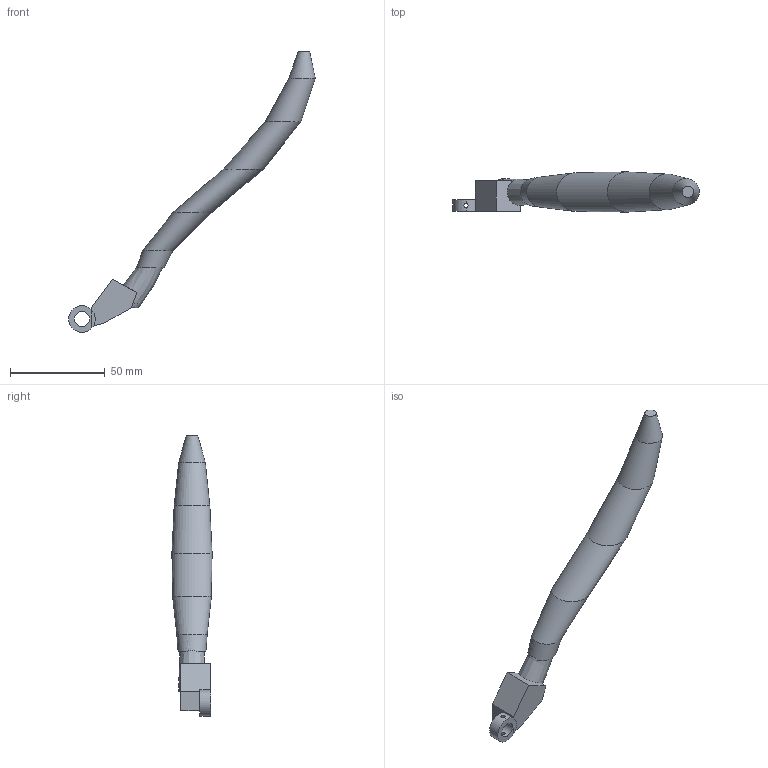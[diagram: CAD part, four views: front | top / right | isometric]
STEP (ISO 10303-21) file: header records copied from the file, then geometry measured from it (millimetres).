
FILE_DESCRIPTION(('Open CASCADE Model'),'2;1');
FILE_NAME('Open CASCADE Shape Model','2026-11-19T19:15:20',('Author'),( 'Open CASCADE'),'Open CASCADE STEP processor 8.0','Open CASCADE 8.0' ,'Unknown');
FILE_SCHEMA(('AUTOMOTIVE_DESIGN { 1 0 10303 214 1 1 1 1 }'));
Length unit declared in the file: millimetre
Products named in the file (1): Open CASCADE STEP translator 8.0 1
Bounding box: 130.01 x 21.2 x 148 mm (x, y, z)
Volume: 18339.6 mm3; surface area: 16364.5 mm2
Topology: 1 solids, 3 shells, 44 faces, 103 edges, 63 vertices
Faces by surface type: plane 23, bspline 16, cylinder 5
Full cylindrical faces by diameter (mm): 2.2 x2, 8.1 x1
Entity records: 8744 total; most frequent: CARTESIAN_POINT 6887, DIRECTION 260, ORIENTED_EDGE 206, PCURVE 206, DEFINITIONAL_REPRESENTATION 206, LINE 151, VECTOR 151, B_SPLINE_CURVE_WITH_KNOTS 121
